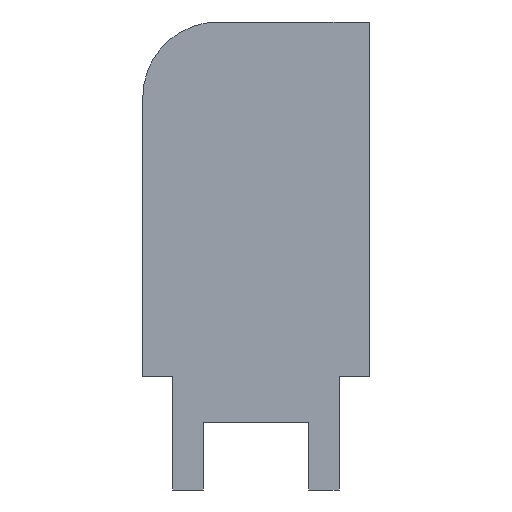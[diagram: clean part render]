
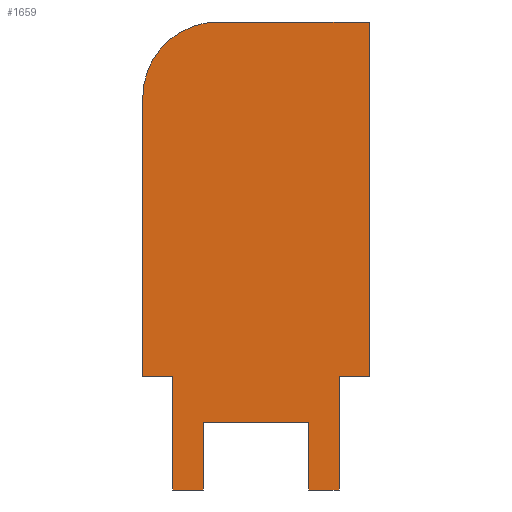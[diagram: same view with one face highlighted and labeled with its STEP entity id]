
A CAD part, left-side view. The second image highlights one B-rep face of the part: STEP entity #1659.
In plain terms, the highlighted planar face has unit normal (-1, 0, 0).
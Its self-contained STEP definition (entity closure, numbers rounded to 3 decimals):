
#64=PLANE('',#1771);
#152=FACE_OUTER_BOUND('',#249,.T.);
#249=EDGE_LOOP('',(#1512,#1513,#1514,#1515,#1516,#1517,#1518,#1519,#1520,
#1521,#1522,#1523,#1524));
#268=CIRCLE('',#1759,5.);
#422=LINE('',#3338,#535);
#426=LINE('',#3346,#539);
#429=LINE('',#3353,#542);
#433=LINE('',#3361,#546);
#436=LINE('',#3367,#549);
#439=LINE('',#3373,#552);
#442=LINE('',#3378,#555);
#450=LINE('',#3393,#563);
#451=LINE('',#3396,#564);
#486=LINE('',#6338,#599);
#493=LINE('',#6351,#606);
#498=LINE('',#6364,#611);
#535=VECTOR('',#1908,10.);
#539=VECTOR('',#1914,10.);
#542=VECTOR('',#1919,10.);
#546=VECTOR('',#1925,10.);
#549=VECTOR('',#1930,10.);
#552=VECTOR('',#1935,10.);
#555=VECTOR('',#1940,10.);
#563=VECTOR('',#1950,10.);
#564=VECTOR('',#1953,10.);
#599=VECTOR('',#2050,10.);
#606=VECTOR('',#2061,10.);
#611=VECTOR('',#2078,10.);
#720=VERTEX_POINT('',#3336);
#721=VERTEX_POINT('',#3337);
#724=VERTEX_POINT('',#3345);
#726=VERTEX_POINT('',#3351);
#727=VERTEX_POINT('',#3352);
#730=VERTEX_POINT('',#3360);
#732=VERTEX_POINT('',#3366);
#734=VERTEX_POINT('',#3372);
#741=VERTEX_POINT('',#3391);
#742=VERTEX_POINT('',#3395);
#768=VERTEX_POINT('',#6329);
#769=VERTEX_POINT('',#6330);
#772=VERTEX_POINT('',#6343);
#910=EDGE_CURVE('',#720,#721,#422,.T.);
#914=EDGE_CURVE('',#724,#720,#426,.T.);
#917=EDGE_CURVE('',#726,#727,#429,.T.);
#921=EDGE_CURVE('',#730,#726,#433,.T.);
#924=EDGE_CURVE('',#732,#730,#436,.T.);
#927=EDGE_CURVE('',#734,#732,#439,.T.);
#930=EDGE_CURVE('',#721,#734,#442,.T.);
#938=EDGE_CURVE('',#741,#724,#450,.T.);
#939=EDGE_CURVE('',#727,#742,#451,.T.);
#1008=EDGE_CURVE('',#768,#769,#268,.T.);
#1012=EDGE_CURVE('',#742,#768,#486,.T.);
#1019=EDGE_CURVE('',#772,#769,#493,.T.);
#1026=EDGE_CURVE('',#741,#772,#498,.T.);
#1512=ORIENTED_EDGE('',*,*,#1026,.T.);
#1513=ORIENTED_EDGE('',*,*,#1019,.T.);
#1514=ORIENTED_EDGE('',*,*,#1008,.F.);
#1515=ORIENTED_EDGE('',*,*,#1012,.F.);
#1516=ORIENTED_EDGE('',*,*,#939,.F.);
#1517=ORIENTED_EDGE('',*,*,#917,.F.);
#1518=ORIENTED_EDGE('',*,*,#921,.F.);
#1519=ORIENTED_EDGE('',*,*,#924,.F.);
#1520=ORIENTED_EDGE('',*,*,#927,.F.);
#1521=ORIENTED_EDGE('',*,*,#930,.F.);
#1522=ORIENTED_EDGE('',*,*,#910,.F.);
#1523=ORIENTED_EDGE('',*,*,#914,.F.);
#1524=ORIENTED_EDGE('',*,*,#938,.F.);
#1659=ADVANCED_FACE('',(#152),#64,.T.);
#1759=AXIS2_PLACEMENT_3D('',#6331,#2042,#2043);
#1771=AXIS2_PLACEMENT_3D('',#6366,#2081,#2082);
#1908=DIRECTION('',(0.,1.,0.));
#1914=DIRECTION('',(0.,0.,-1.));
#1919=DIRECTION('',(0.,0.,1.));
#1925=DIRECTION('',(0.,1.,0.));
#1930=DIRECTION('',(0.,0.,-1.));
#1935=DIRECTION('',(0.,1.,0.));
#1940=DIRECTION('',(0.,0.,1.));
#1950=DIRECTION('',(0.,1.,0.));
#1953=DIRECTION('',(0.,1.,0.));
#2042=DIRECTION('center_axis',(1.,0.,0.));
#2043=DIRECTION('ref_axis',(0.,1.,0.));
#2050=DIRECTION('',(0.,0.,1.));
#2061=DIRECTION('',(0.,1.,0.));
#2078=DIRECTION('',(0.,0.,1.));
#2081=DIRECTION('center_axis',(-1.,0.,0.));
#2082=DIRECTION('ref_axis',(0.,0.,1.));
#3336=CARTESIAN_POINT('',(-25.8,2.,-7.5));
#3337=CARTESIAN_POINT('',(-25.8,4.,-7.5));
#3338=CARTESIAN_POINT('',(-25.8,2.,-7.5));
#3345=CARTESIAN_POINT('',(-25.8,2.,0.));
#3346=CARTESIAN_POINT('',(-25.8,2.,0.));
#3351=CARTESIAN_POINT('',(-25.8,13.,-7.5));
#3352=CARTESIAN_POINT('',(-25.8,13.,0.));
#3353=CARTESIAN_POINT('',(-25.8,13.,-7.5));
#3360=CARTESIAN_POINT('',(-25.8,11.,-7.5));
#3361=CARTESIAN_POINT('',(-25.8,11.,-7.5));
#3366=CARTESIAN_POINT('',(-25.8,11.,-3.));
#3367=CARTESIAN_POINT('',(-25.8,11.,-3.));
#3372=CARTESIAN_POINT('',(-25.8,4.,-3.));
#3373=CARTESIAN_POINT('',(-25.8,4.,-3.));
#3378=CARTESIAN_POINT('',(-25.8,4.,-7.5));
#3391=CARTESIAN_POINT('',(-25.8,0.,0.));
#3393=CARTESIAN_POINT('',(-25.8,0.,0.));
#3395=CARTESIAN_POINT('',(-25.8,15.,0.));
#3396=CARTESIAN_POINT('',(-25.8,0.,0.));
#6329=CARTESIAN_POINT('',(-25.8,15.,18.5));
#6330=CARTESIAN_POINT('',(-25.8,10.,23.5));
#6331=CARTESIAN_POINT('Origin',(-25.8,10.,18.5));
#6338=CARTESIAN_POINT('',(-25.8,15.,0.));
#6343=CARTESIAN_POINT('',(-25.8,0.,23.5));
#6351=CARTESIAN_POINT('',(-25.8,0.,23.5));
#6364=CARTESIAN_POINT('',(-25.8,0.,0.));
#6366=CARTESIAN_POINT('Origin',(-25.8,0.,0.));
